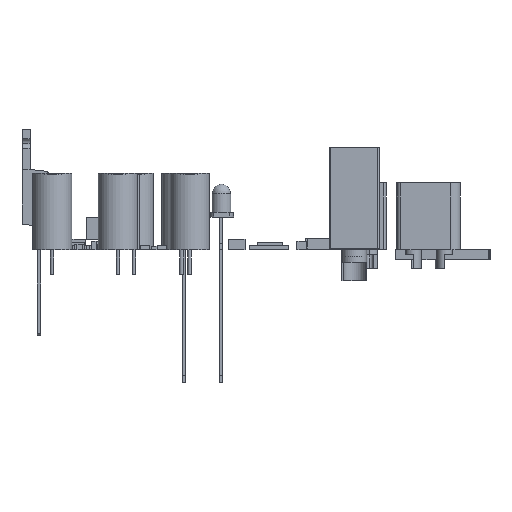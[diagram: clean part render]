
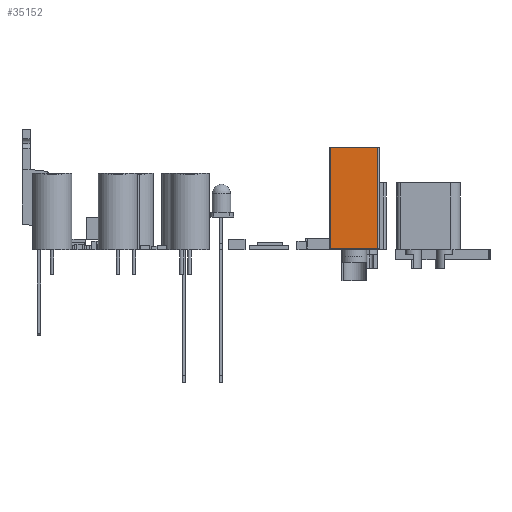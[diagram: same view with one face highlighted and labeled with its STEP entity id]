
A CAD part, left-side view. The second image highlights one B-rep face of the part: STEP entity #35152.
In plain terms, the highlighted planar face has unit normal (-1, 0, 0) as drawn and (1, 0, 0) by its records, which use the part's own axes.
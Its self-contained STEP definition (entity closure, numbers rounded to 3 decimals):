
#30375 = VERTEX_POINT('',#30376);
#30376 = CARTESIAN_POINT('',(8.212,-3.8,-3.879));
#30420 = CYLINDRICAL_SURFACE('',#30421,0.2);
#30421 = AXIS2_PLACEMENT_3D('',#30422,#30423,#30424);
#30422 = CARTESIAN_POINT('',(8.012,-2.,-3.879));
#30423 = DIRECTION('',(0.,-1.,0.));
#30424 = DIRECTION('',(0.,0.,-1.));
#30497 = CYLINDRICAL_SURFACE('',#30498,0.2);
#30498 = AXIS2_PLACEMENT_3D('',#30499,#30500,#30501);
#30499 = CARTESIAN_POINT('',(8.012,-3.8,-4.079));
#30500 = DIRECTION('',(0.,0.,1.));
#30501 = DIRECTION('',(1.,0.,0.));
#30924 = PLANE('',#30925);
#30925 = AXIS2_PLACEMENT_3D('',#30926,#30927,#30928);
#30926 = CARTESIAN_POINT('',(1.057,0.,
    12.321));
#30927 = DIRECTION('',(0.,0.,1.));
#30928 = DIRECTION('',(1.,0.,0.));
#32267 = VERTEX_POINT('',#32268);
#32268 = CARTESIAN_POINT('',(8.212,-3.8,12.321));
#32289 = EDGE_CURVE('',#32267,#32290,#32292,.T.);
#32290 = VERTEX_POINT('',#32291);
#32291 = CARTESIAN_POINT('',(8.212,3.8,12.321));
#32292 = SURFACE_CURVE('',#32293,(#32297,#32304),.PCURVE_S1.);
#32293 = LINE('',#32294,#32295);
#32294 = CARTESIAN_POINT('',(8.212,0.,
    12.321));
#32295 = VECTOR('',#32296,1.);
#32296 = DIRECTION('',(0.,1.,0.));
#32297 = PCURVE('',#30924,#32298);
#32298 = DEFINITIONAL_REPRESENTATION('',(#32299),#32303);
#32299 = LINE('',#32300,#32301);
#32300 = CARTESIAN_POINT('',(7.155,0.));
#32301 = VECTOR('',#32302,1.);
#32302 = DIRECTION('',(0.,1.));
#32303 = ( GEOMETRIC_REPRESENTATION_CONTEXT(2) 
PARAMETRIC_REPRESENTATION_CONTEXT() REPRESENTATION_CONTEXT('2D SPACE',''
  ) );
#32304 = PCURVE('',#32305,#32310);
#32305 = PLANE('',#32306);
#32306 = AXIS2_PLACEMENT_3D('',#32307,#32308,#32309);
#32307 = CARTESIAN_POINT('',(8.212,-4.,-4.079));
#32308 = DIRECTION('',(1.,0.,0.));
#32309 = DIRECTION('',(0.,0.,-1.));
#32310 = DEFINITIONAL_REPRESENTATION('',(#32311),#32315);
#32311 = LINE('',#32312,#32313);
#32312 = CARTESIAN_POINT('',(-16.4,4.));
#32313 = VECTOR('',#32314,1.);
#32314 = DIRECTION('',(0.,1.));
#32315 = ( GEOMETRIC_REPRESENTATION_CONTEXT(2) 
PARAMETRIC_REPRESENTATION_CONTEXT() REPRESENTATION_CONTEXT('2D SPACE',''
  ) );
#32338 = CYLINDRICAL_SURFACE('',#32339,0.2);
#32339 = AXIS2_PLACEMENT_3D('',#32340,#32341,#32342);
#32340 = CARTESIAN_POINT('',(8.012,3.8,-4.079));
#32341 = DIRECTION('',(0.,0.,1.));
#32342 = DIRECTION('',(1.,0.,0.));
#33273 = EDGE_CURVE('',#30375,#32267,#33274,.T.);
#33274 = SURFACE_CURVE('',#33275,(#33279,#33285),.PCURVE_S1.);
#33275 = LINE('',#33276,#33277);
#33276 = CARTESIAN_POINT('',(8.212,-3.8,-4.079));
#33277 = VECTOR('',#33278,1.);
#33278 = DIRECTION('',(0.,0.,1.));
#33279 = PCURVE('',#30497,#33280);
#33280 = DEFINITIONAL_REPRESENTATION('',(#33281),#33284);
#33281 = B_SPLINE_CURVE_WITH_KNOTS('',1,(#33282,#33283),.UNSPECIFIED.,
  .F.,.F.,(2,2),(0.2,16.4),.PIECEWISE_BEZIER_KNOTS.);
#33282 = CARTESIAN_POINT('',(6.283,0.2));
#33283 = CARTESIAN_POINT('',(6.283,16.4));
#33284 = ( GEOMETRIC_REPRESENTATION_CONTEXT(2) 
PARAMETRIC_REPRESENTATION_CONTEXT() REPRESENTATION_CONTEXT('2D SPACE',''
  ) );
#33285 = PCURVE('',#32305,#33286);
#33286 = DEFINITIONAL_REPRESENTATION('',(#33287),#33291);
#33287 = LINE('',#33288,#33289);
#33288 = CARTESIAN_POINT('',(0.,0.2));
#33289 = VECTOR('',#33290,1.);
#33290 = DIRECTION('',(-1.,0.));
#33291 = ( GEOMETRIC_REPRESENTATION_CONTEXT(2) 
PARAMETRIC_REPRESENTATION_CONTEXT() REPRESENTATION_CONTEXT('2D SPACE',''
  ) );
#35152 = ADVANCED_FACE('',(#35153),#32305,.T.);
#35153 = FACE_BOUND('',#35154,.T.);
#35154 = EDGE_LOOP('',(#35155,#35177,#35178,#35179));
#35155 = ORIENTED_EDGE('',*,*,#35156,.T.);
#35156 = EDGE_CURVE('',#35157,#32290,#35159,.T.);
#35157 = VERTEX_POINT('',#35158);
#35158 = CARTESIAN_POINT('',(8.212,3.8,-3.879));
#35159 = SURFACE_CURVE('',#35160,(#35164,#35171),.PCURVE_S1.);
#35160 = LINE('',#35161,#35162);
#35161 = CARTESIAN_POINT('',(8.212,3.8,-4.079));
#35162 = VECTOR('',#35163,1.);
#35163 = DIRECTION('',(0.,0.,1.));
#35164 = PCURVE('',#32305,#35165);
#35165 = DEFINITIONAL_REPRESENTATION('',(#35166),#35170);
#35166 = LINE('',#35167,#35168);
#35167 = CARTESIAN_POINT('',(0.,7.8));
#35168 = VECTOR('',#35169,1.);
#35169 = DIRECTION('',(-1.,0.));
#35170 = ( GEOMETRIC_REPRESENTATION_CONTEXT(2) 
PARAMETRIC_REPRESENTATION_CONTEXT() REPRESENTATION_CONTEXT('2D SPACE',''
  ) );
#35171 = PCURVE('',#32338,#35172);
#35172 = DEFINITIONAL_REPRESENTATION('',(#35173),#35176);
#35173 = B_SPLINE_CURVE_WITH_KNOTS('',1,(#35174,#35175),.UNSPECIFIED.,
  .F.,.F.,(2,2),(0.2,16.4),.PIECEWISE_BEZIER_KNOTS.);
#35174 = CARTESIAN_POINT('',(0.,0.2));
#35175 = CARTESIAN_POINT('',(0.,16.4));
#35176 = ( GEOMETRIC_REPRESENTATION_CONTEXT(2) 
PARAMETRIC_REPRESENTATION_CONTEXT() REPRESENTATION_CONTEXT('2D SPACE',''
  ) );
#35177 = ORIENTED_EDGE('',*,*,#32289,.F.);
#35178 = ORIENTED_EDGE('',*,*,#33273,.F.);
#35179 = ORIENTED_EDGE('',*,*,#35180,.T.);
#35180 = EDGE_CURVE('',#30375,#35157,#35181,.T.);
#35181 = SURFACE_CURVE('',#35182,(#35186,#35193),.PCURVE_S1.);
#35182 = LINE('',#35183,#35184);
#35183 = CARTESIAN_POINT('',(8.212,-4.,-3.879));
#35184 = VECTOR('',#35185,1.);
#35185 = DIRECTION('',(0.,1.,0.));
#35186 = PCURVE('',#32305,#35187);
#35187 = DEFINITIONAL_REPRESENTATION('',(#35188),#35192);
#35188 = LINE('',#35189,#35190);
#35189 = CARTESIAN_POINT('',(-0.2,0.));
#35190 = VECTOR('',#35191,1.);
#35191 = DIRECTION('',(0.,1.));
#35192 = ( GEOMETRIC_REPRESENTATION_CONTEXT(2) 
PARAMETRIC_REPRESENTATION_CONTEXT() REPRESENTATION_CONTEXT('2D SPACE',''
  ) );
#35193 = PCURVE('',#30420,#35194);
#35194 = DEFINITIONAL_REPRESENTATION('',(#35195),#35198);
#35195 = B_SPLINE_CURVE_WITH_KNOTS('',1,(#35196,#35197),.UNSPECIFIED.,
  .F.,.F.,(2,2),(0.2,7.8),.PIECEWISE_BEZIER_KNOTS.);
#35196 = CARTESIAN_POINT('',(1.571,1.8));
#35197 = CARTESIAN_POINT('',(1.571,-5.8));
#35198 = ( GEOMETRIC_REPRESENTATION_CONTEXT(2) 
PARAMETRIC_REPRESENTATION_CONTEXT() REPRESENTATION_CONTEXT('2D SPACE',''
  ) );
